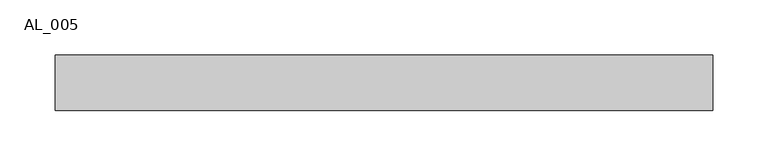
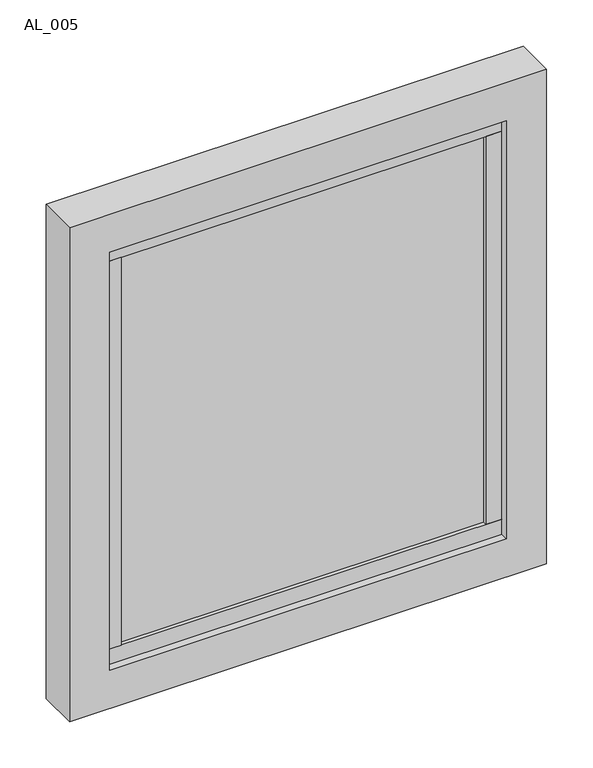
"""IFC4 building model written with IfcOpenShell, lengths in millimetres: plate geometry, TRP_CP_ARC_PF_RE : AL_005."""

from ifc_helpers import new_model, si_unit, frame, origin, place, context, project, spatial, polyline, outline, extrude, source, transform, mapped, element, save


def al_005_14935a9d(model_context):
    return source(origin(), model_context, "Body", "SweptSolid", [
        extrude(outline(polyline([(226.9476487, -10.0), (-226.9476487, -10.0), (-226.9476487, 10.0), (226.9476487, 10.0), (226.9476487, -10.0)])), frame((0.0, 0.0, 70.0), z_axis=(0.0, 0.0, 1.0), x_axis=(1.0, 0.0, 0.0)), (0.0, 0.0, 1.0), 509.970898),
        extrude(outline(polyline([(246.9476487, -15.0), (226.9476487, -15.0), (226.9476487, 15.0), (246.9476487, 15.0), (246.9476487, -15.0)])), frame((0.0, 0.0, 70.0), z_axis=(0.0, 0.0, 1.0), x_axis=(1.0, 0.0, 0.0)), (0.0, 0.0, 1.0), 509.970898),
        extrude(outline(polyline([(-226.9476487, -15.0), (-246.9476487, -15.0), (-246.9476487, 15.0), (-226.9476487, 15.0), (-226.9476487, -15.0)])), frame((0.0, 0.0, 70.0), z_axis=(0.0, 0.0, 1.0), x_axis=(1.0, 0.0, 0.0)), (0.0, 0.0, 1.0), 509.970898),
        extrude(outline(polyline([(246.9476487, -15.0), (-246.9476487, -15.0), (-246.9476487, 15.0), (246.9476487, 15.0), (246.9476487, -15.0)])), frame((0.0, 0.0, 50.0), z_axis=(0.0, 0.0, 1.0), x_axis=(1.0, 0.0, 0.0)), (0.0, 0.0, 1.0), 20.0),
        extrude(outline(polyline([(246.9476487, -15.0), (-246.9476487, -15.0), (-246.9476487, 15.0), (246.9476487, 15.0), (246.9476487, -15.0)])), frame((0.0, 0.0, 579.970898), z_axis=(0.0, 0.0, 1.0), x_axis=(1.0, 0.0, 0.0)), (0.0, 0.0, 1.0), 20.0),
        extrude(outline(polyline([(649.970898, 296.9476487), (649.970898, -296.9476487), (0.0, -296.9476487), (0.0, 296.9476487), (649.970898, 296.9476487)]), holes=[polyline([(50.0, 246.9476487), (50.0, -246.9476487), (599.970898, -246.9476487), (599.970898, 246.9476487), (50.0, 246.9476487)])]), frame((0.0, -25.0, 0.0), z_axis=(0.0, 1.0, 0.0), x_axis=(0.0, 0.0, 1.0)), (0.0, 0.0, 1.0), 50.0),
    ])


if __name__ == "__main__":
    model = new_model("IFC4")
    model_context = context("Model", 3, world=origin())
    ifc_project = project(units=[si_unit("LENGTHUNIT", "METRE", prefix="MILLI")], contexts=[model_context])
    site = spatial("IfcSite", under=ifc_project)
    building = spatial("IfcBuilding", under=site)
    placement = place(None, origin())
    al_005_shape = al_005_14935a9d(model_context)
    element("IfcPlate", 1, ObjectType="TRP_CP_ARC_PF_RE : AL_005", at=placement, inside=building, context=model_context, shape_type="MappedRepresentation", body=[
        mapped(al_005_shape, transform((0.0, 0.0, 0.0), x_axis=(1.0, 0.0, 0.0), y_axis=(0.0, 1.0, 0.0), z_axis=(0.0, 0.0, 1.0))),
    ])
    save(model, "model.ifc")
